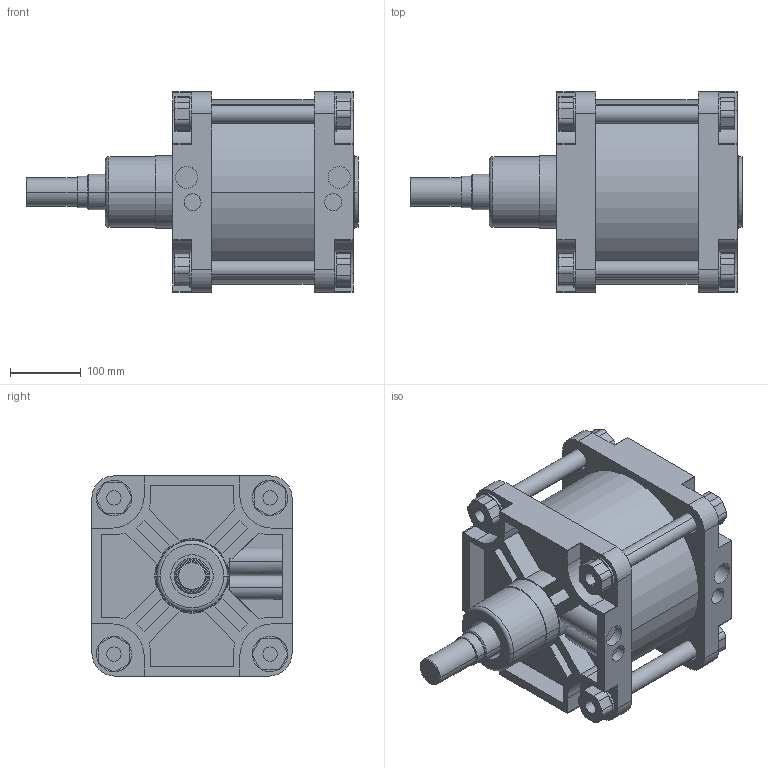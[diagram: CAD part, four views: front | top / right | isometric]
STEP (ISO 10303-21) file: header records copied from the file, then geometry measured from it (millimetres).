
FILE_DESCRIPTION(('CATIA V5 STEP Exchange'),'2;1');
FILE_NAME('D:\stp file for catalog\PNC\250\PNC 250-50-50-00.stp','2015-10-25T11:58:27+00:00',('none'),('none'),'Version 5-6 Release 2012','CATIA V5 STEP AP203','none');
FILE_SCHEMA(('CONFIG_CONTROL_DESIGN'));
Length unit declared in the file: millimetre
Products named in the file (1): PNC 250-50-50-00
Assembly tree (2 placements, depth 2):
  PNC 250-50-50-00
    #58
    #15305
Bounding box: 468 x 282 x 282 mm (x, y, z)
Volume: 9706412.3 mm3; surface area: 1109208.5 mm2
Topology: 2 solids, 2 shells, 556 faces, 1428 edges, 944 vertices
Faces by surface type: plane 316, cylinder 196, cone 42, torus 2
Entity records: 15751 total; most frequent: CARTESIAN_POINT 3340, ORIENTED_EDGE 2856, DIRECTION 1929, EDGE_CURVE 1428, VERTEX_POINT 944, VECTOR 904, LINE 904, AXIS2_PLACEMENT_3D 718
